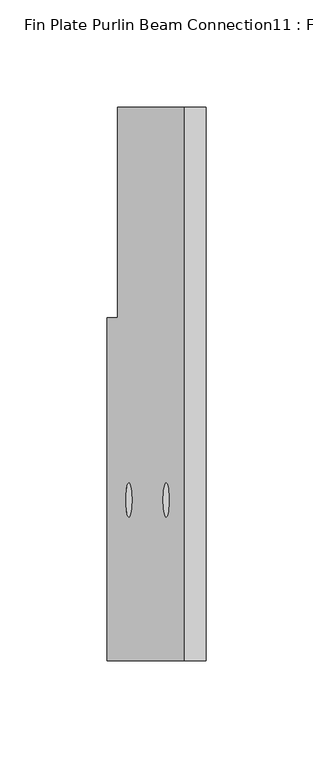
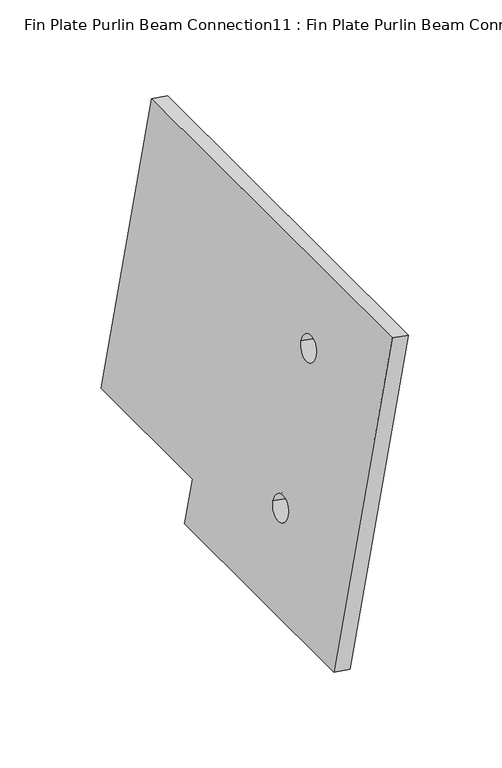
"""IFC4 building model written with IfcOpenShell, lengths in millimetres: proxy geometry, Fin Plate Purlin Beam Connection11 : Fin Plate Purlin Beam Connection."""

from ifc_helpers import new_model, si_unit, point, frame, frame_2d, origin, place, context, project, spatial, polyline, circle_curve, trimmed, segment, composite_curve, outline, extrude, source, transform, mapped, element, save


def fin_plate_purlin_beam_connection11_fin_plate_purlin_beam_1faf306a(model_context):
    return source(origin(), model_context, "Body", "SweptSolid", [
        extrude(outline(polyline([(0.0, 0.0), (0.0, -181.2383862), (-258.2, -181.2383862), (-258.2, 27.7176621), (-98.2, 27.7176621), (-98.2, 0.0), (0.0, 0.0)]), holes=[composite_curve([segment(trimmed(circle_curve(frame_2d((-183.2, -131.2383863)), 8.0), [point((-175.2, -131.2383863))], [point((-191.2, -131.2383863))], True, "CARTESIAN"), True, "CONTINUOUS"), segment(trimmed(circle_curve(frame_2d((-183.2, -131.2383863)), 8.0), [point((-191.2, -131.2383863))], [point((-175.2, -131.2383863))], True, "CARTESIAN"), True, "CONTINUOUS")], self_intersect=False), composite_curve([segment(trimmed(circle_curve(frame_2d((-183.2, -31.2383863)), 8.0), [point((-175.2, -31.2383863))], [point((-191.2, -31.2383863))], True, "CARTESIAN"), True, "CONTINUOUS"), segment(trimmed(circle_curve(frame_2d((-183.2, -31.2383863)), 8.0), [point((-191.2, -31.2383863))], [point((-175.2, -31.2383863))], True, "CARTESIAN"), True, "CONTINUOUS")], self_intersect=False)]), frame((-31942.3985234, 15850.823117, 3276.0111627), z_axis=(-0.9848077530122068, 0.0, 0.17364817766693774), x_axis=(0.0, 1.0, 0.0)), (0.0, 0.0, 1.0), 10.0),
    ])


if __name__ == "__main__":
    model = new_model("IFC4")
    model_context = context("Model", 3, world=origin())
    ifc_project = project(units=[si_unit("LENGTHUNIT", "METRE", prefix="MILLI")], contexts=[model_context])
    site = spatial("IfcSite", under=ifc_project)
    building = spatial("IfcBuilding", under=site)
    placement = place(None, origin())
    fin_plate_purlin_beam_connection11_fin_plate_purlin_beam_shape = fin_plate_purlin_beam_connection11_fin_plate_purlin_beam_1faf306a(model_context)
    element("IfcBuildingElementProxy", 1, Name="Fin Plate Purlin Beam Connection11 : Fin Plate Purlin Beam Connection", ObjectType="Fin Plate Purlin Beam Connection11 : Fin Plate Purlin Beam Connection", at=placement, inside=building, context=model_context, shape_type="MappedRepresentation", body=[
        mapped(fin_plate_purlin_beam_connection11_fin_plate_purlin_beam_shape, transform((0.0, 0.0, 0.0), x_axis=(1.0, 0.0, 0.0), y_axis=(0.0, 1.0, 0.0), z_axis=(0.0, 0.0, 1.0))),
    ])
    save(model, "model.ifc")
